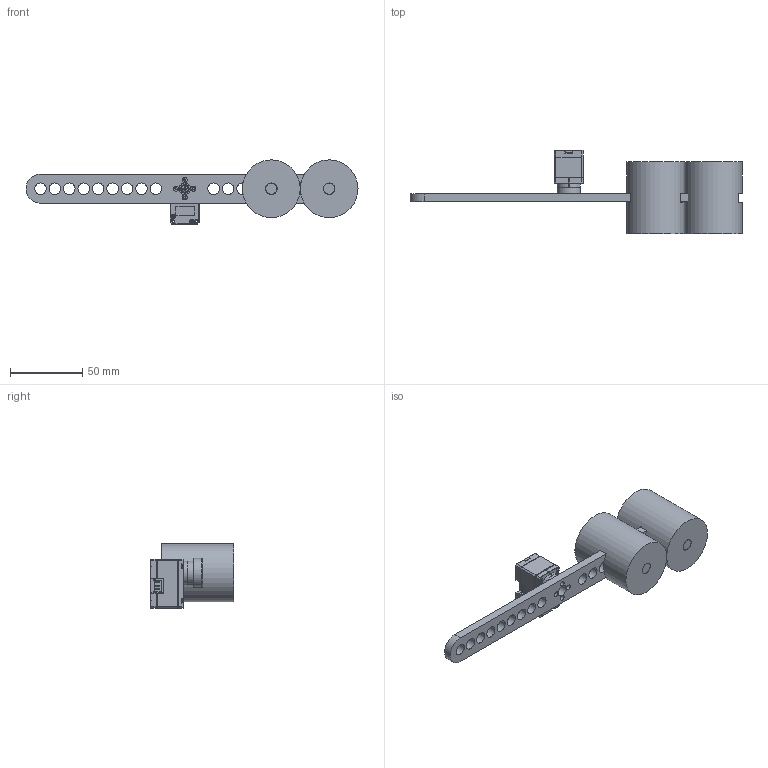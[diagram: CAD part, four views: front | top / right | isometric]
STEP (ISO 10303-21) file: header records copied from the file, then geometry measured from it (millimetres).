
FILE_DESCRIPTION(/* description */ (''),/* implementation_level */ '2;1');
FILE_NAME(/* name */ '1DOF-G1.step',/* time_stamp */ '2026-09-01T18:29:11+04:00',/* author */ (''),/* organization */ (''),/* preprocessor_version */ 'ST-DEVELOPER v20.1',/* originating_system */ 'Autodesk Translation Framework v15.8.0.0',/* authorisation */ '');
FILE_SCHEMA (('AUTOMOTIVE_DESIGN { 1 0 10303 214 3 1 1 }'));
Length unit declared in the file: millimetre
Products named in the file (5): 2026-08-25-18-27-56-509; 2026-08-23-02-38-30-805; 2026-08-23-13-27-59-025; 2026-08-23-13-33-12-551; 2026-08-23-13-34-08-997
Assembly tree (6 placements, depth 2):
  2026-08-25-18-27-56-509
    2026-08-23-02-38-30-805
    2026-08-23-13-27-59-025
    2026-08-23-13-33-12-551  x2
    2026-08-23-13-34-08-997  x2
Bounding box: 230 x 58 x 44.5 mm (x, y, z)
Volume: 150677.1 mm3; surface area: 44880.5 mm2
Topology: 6 solids, 16 shells, 624 faces, 1586 edges, 1031 vertices
Faces by surface type: plane 442, cylinder 151, cone 19, torus 7, sphere 5
Full cylindrical faces by diameter (mm): 1.4 x8, 1.6 x16, 1.8 x4, 2 x8, 2.2 x1, 3.5 x4, 5 x1, 5.2 x1, 5.6 x1, 6 x1, 6.7 x1, 7.68 x2, 7.8 x1, 8 x23, 10 x2, 14 x2, 16 x1, 40 x2
Entity records: 18822 total; most frequent: CARTESIAN_POINT 3393, DIRECTION 3160, ORIENTED_EDGE 3118, EDGE_CURVE 1559, LINE 1146, VECTOR 1146, VERTEX_POINT 1013, AXIS2_PLACEMENT_3D 1007
